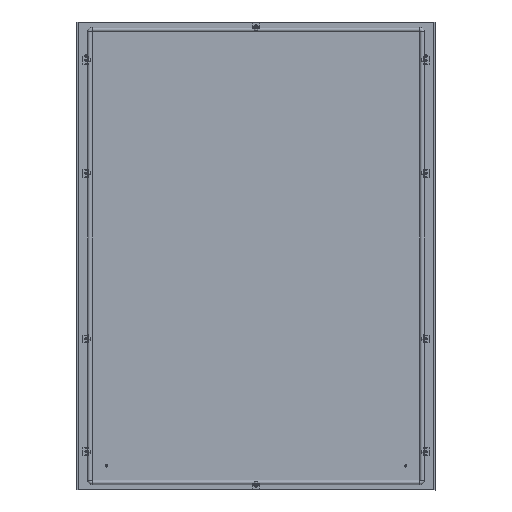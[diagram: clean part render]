
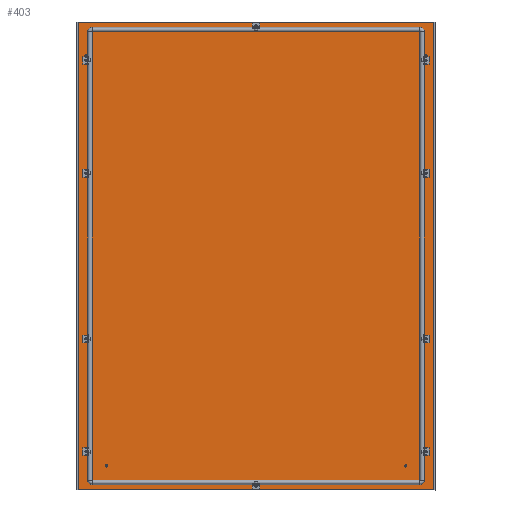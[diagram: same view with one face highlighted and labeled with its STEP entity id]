
A CAD part, top view. The second image highlights one B-rep face of the part: STEP entity #403.
In plain terms, the highlighted planar face has unit normal (0, 0, 1).
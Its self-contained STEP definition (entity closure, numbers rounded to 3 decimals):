
#403 = ADVANCED_FACE('',(#404,#502,#513,#524,#535,#546,#566,#586,#597,
    #608,#628),#648,.F.);
#404 = FACE_BOUND('',#405,.T.);
#405 = EDGE_LOOP('',(#406,#416,#424,#432,#440,#448,#456,#464,#472,#480,
    #488,#496));
#406 = ORIENTED_EDGE('',*,*,#407,.F.);
#407 = EDGE_CURVE('',#408,#410,#412,.T.);
#408 = VERTEX_POINT('',#409);
#409 = CARTESIAN_POINT('',(-595.5,777.5,0.));
#410 = VERTEX_POINT('',#411);
#411 = CARTESIAN_POINT('',(-595.3,777.5,0.));
#412 = LINE('',#413,#414);
#413 = CARTESIAN_POINT('',(0.,777.5,0.)
  );
#414 = VECTOR('',#415,1.);
#415 = DIRECTION('',(1.,0.,0.));
#416 = ORIENTED_EDGE('',*,*,#417,.T.);
#417 = EDGE_CURVE('',#408,#418,#420,.T.);
#418 = VERTEX_POINT('',#419);
#419 = CARTESIAN_POINT('',(-595.5,-777.5,
    0.));
#420 = LINE('',#421,#422);
#421 = CARTESIAN_POINT('',(-595.5,0.,0.));
#422 = VECTOR('',#423,1.);
#423 = DIRECTION('',(0.,-1.,-0.));
#424 = ORIENTED_EDGE('',*,*,#425,.T.);
#425 = EDGE_CURVE('',#418,#426,#428,.T.);
#426 = VERTEX_POINT('',#427);
#427 = CARTESIAN_POINT('',(-595.3,-777.5,
    0.));
#428 = LINE('',#429,#430);
#429 = CARTESIAN_POINT('',(0.,-777.5,
    0.));
#430 = VECTOR('',#431,1.);
#431 = DIRECTION('',(1.,-0.,-0.));
#432 = ORIENTED_EDGE('',*,*,#433,.F.);
#433 = EDGE_CURVE('',#434,#426,#436,.T.);
#434 = VERTEX_POINT('',#435);
#435 = CARTESIAN_POINT('',(-595.3,-776.,
    0.));
#436 = LINE('',#437,#438);
#437 = CARTESIAN_POINT('',(-595.3,0.,
    0.));
#438 = VECTOR('',#439,1.);
#439 = DIRECTION('',(0.,-1.,0.));
#440 = ORIENTED_EDGE('',*,*,#441,.T.);
#441 = EDGE_CURVE('',#434,#442,#444,.T.);
#442 = VERTEX_POINT('',#443);
#443 = CARTESIAN_POINT('',(595.3,-776.,
    0.));
#444 = LINE('',#445,#446);
#445 = CARTESIAN_POINT('',(0.,-776.,
    0.));
#446 = VECTOR('',#447,1.);
#447 = DIRECTION('',(1.,-0.,-0.));
#448 = ORIENTED_EDGE('',*,*,#449,.T.);
#449 = EDGE_CURVE('',#442,#450,#452,.T.);
#450 = VERTEX_POINT('',#451);
#451 = CARTESIAN_POINT('',(595.3,-777.5,0.));
#452 = LINE('',#453,#454);
#453 = CARTESIAN_POINT('',(595.3,-776.,
    0.));
#454 = VECTOR('',#455,1.);
#455 = DIRECTION('',(0.,-1.,-0.));
#456 = ORIENTED_EDGE('',*,*,#457,.F.);
#457 = EDGE_CURVE('',#458,#450,#460,.T.);
#458 = VERTEX_POINT('',#459);
#459 = CARTESIAN_POINT('',(595.5,-777.5,0.));
#460 = LINE('',#461,#462);
#461 = CARTESIAN_POINT('',(0.,-777.5,0.
    ));
#462 = VECTOR('',#463,1.);
#463 = DIRECTION('',(-1.,0.,0.));
#464 = ORIENTED_EDGE('',*,*,#465,.T.);
#465 = EDGE_CURVE('',#458,#466,#468,.T.);
#466 = VERTEX_POINT('',#467);
#467 = CARTESIAN_POINT('',(595.5,777.5,0.));
#468 = LINE('',#469,#470);
#469 = CARTESIAN_POINT('',(595.5,0.,0.));
#470 = VECTOR('',#471,1.);
#471 = DIRECTION('',(-0.,1.,-0.));
#472 = ORIENTED_EDGE('',*,*,#473,.T.);
#473 = EDGE_CURVE('',#466,#474,#476,.T.);
#474 = VERTEX_POINT('',#475);
#475 = CARTESIAN_POINT('',(595.3,777.5,0.));
#476 = LINE('',#477,#478);
#477 = CARTESIAN_POINT('',(0.,777.5,0.)
  );
#478 = VECTOR('',#479,1.);
#479 = DIRECTION('',(-1.,-0.,-0.));
#480 = ORIENTED_EDGE('',*,*,#481,.F.);
#481 = EDGE_CURVE('',#482,#474,#484,.T.);
#482 = VERTEX_POINT('',#483);
#483 = CARTESIAN_POINT('',(595.3,776.,0.));
#484 = LINE('',#485,#486);
#485 = CARTESIAN_POINT('',(595.3,0.,
    0.));
#486 = VECTOR('',#487,1.);
#487 = DIRECTION('',(0.,1.,0.));
#488 = ORIENTED_EDGE('',*,*,#489,.T.);
#489 = EDGE_CURVE('',#482,#490,#492,.T.);
#490 = VERTEX_POINT('',#491);
#491 = CARTESIAN_POINT('',(-595.3,776.,0.));
#492 = LINE('',#493,#494);
#493 = CARTESIAN_POINT('',(0.,776.,0.)
  );
#494 = VECTOR('',#495,1.);
#495 = DIRECTION('',(-1.,-0.,-0.));
#496 = ORIENTED_EDGE('',*,*,#497,.T.);
#497 = EDGE_CURVE('',#490,#410,#498,.T.);
#498 = LINE('',#499,#500);
#499 = CARTESIAN_POINT('',(-595.3,776.,0.));
#500 = VECTOR('',#501,1.);
#501 = DIRECTION('',(0.,1.,-0.));
#502 = FACE_BOUND('',#503,.T.);
#503 = EDGE_LOOP('',(#504));
#504 = ORIENTED_EDGE('',*,*,#505,.T.);
#505 = EDGE_CURVE('',#506,#506,#508,.T.);
#506 = VERTEX_POINT('',#507);
#507 = CARTESIAN_POINT('',(-4.75,764.5,0.));
#508 = CIRCLE('',#509,4.75);
#509 = AXIS2_PLACEMENT_3D('',#510,#511,#512);
#510 = CARTESIAN_POINT('',(0.,764.5,0.));
#511 = DIRECTION('',(0.,0.,-1.));
#512 = DIRECTION('',(-1.,0.,0.));
#513 = FACE_BOUND('',#514,.T.);
#514 = EDGE_LOOP('',(#515));
#515 = ORIENTED_EDGE('',*,*,#516,.T.);
#516 = EDGE_CURVE('',#517,#517,#519,.T.);
#517 = VERTEX_POINT('',#518);
#518 = CARTESIAN_POINT('',(4.75,-764.5,0.));
#519 = CIRCLE('',#520,4.75);
#520 = AXIS2_PLACEMENT_3D('',#521,#522,#523);
#521 = CARTESIAN_POINT('',(0.,-764.5,0.));
#522 = DIRECTION('',(0.,0.,-1.));
#523 = DIRECTION('',(1.,0.,0.));
#524 = FACE_BOUND('',#525,.T.);
#525 = EDGE_LOOP('',(#526));
#526 = ORIENTED_EDGE('',*,*,#527,.T.);
#527 = EDGE_CURVE('',#528,#528,#530,.T.);
#528 = VERTEX_POINT('',#529);
#529 = CARTESIAN_POINT('',(-564.5,-270.25,
    0.));
#530 = CIRCLE('',#531,4.75);
#531 = AXIS2_PLACEMENT_3D('',#532,#533,#534);
#532 = CARTESIAN_POINT('',(-564.5,-275.,
    0.));
#533 = DIRECTION('',(0.,0.,-1.));
#534 = DIRECTION('',(0.,1.,0.));
#535 = FACE_BOUND('',#536,.T.);
#536 = EDGE_LOOP('',(#537));
#537 = ORIENTED_EDGE('',*,*,#538,.T.);
#538 = EDGE_CURVE('',#539,#539,#541,.T.);
#539 = VERTEX_POINT('',#540);
#540 = CARTESIAN_POINT('',(564.5,-279.75,
    0.));
#541 = CIRCLE('',#542,4.75);
#542 = AXIS2_PLACEMENT_3D('',#543,#544,#545);
#543 = CARTESIAN_POINT('',(564.5,-275.,0.));
#544 = DIRECTION('',(-0.,0.,-1.));
#545 = DIRECTION('',(0.,-1.,0.));
#546 = FACE_BOUND('',#547,.T.);
#547 = EDGE_LOOP('',(#548,#559));
#548 = ORIENTED_EDGE('',*,*,#549,.F.);
#549 = EDGE_CURVE('',#550,#552,#554,.T.);
#550 = VERTEX_POINT('',#551);
#551 = CARTESIAN_POINT('',(-564.5,654.75,
    0.));
#552 = VERTEX_POINT('',#553);
#553 = CARTESIAN_POINT('',(-564.5,645.25,
    0.));
#554 = CIRCLE('',#555,4.75);
#555 = AXIS2_PLACEMENT_3D('',#556,#557,#558);
#556 = CARTESIAN_POINT('',(-564.5,650.,
    0.));
#557 = DIRECTION('',(0.,0.,1.));
#558 = DIRECTION('',(0.,1.,0.));
#559 = ORIENTED_EDGE('',*,*,#560,.F.);
#560 = EDGE_CURVE('',#552,#550,#561,.T.);
#561 = CIRCLE('',#562,4.75);
#562 = AXIS2_PLACEMENT_3D('',#563,#564,#565);
#563 = CARTESIAN_POINT('',(-564.5,650.,
    0.));
#564 = DIRECTION('',(0.,0.,1.));
#565 = DIRECTION('',(0.,1.,0.));
#566 = FACE_BOUND('',#567,.T.);
#567 = EDGE_LOOP('',(#568,#579));
#568 = ORIENTED_EDGE('',*,*,#569,.F.);
#569 = EDGE_CURVE('',#570,#572,#574,.T.);
#570 = VERTEX_POINT('',#571);
#571 = CARTESIAN_POINT('',(564.5,645.25,
    0.));
#572 = VERTEX_POINT('',#573);
#573 = CARTESIAN_POINT('',(564.5,654.75,
    0.));
#574 = CIRCLE('',#575,4.75);
#575 = AXIS2_PLACEMENT_3D('',#576,#577,#578);
#576 = CARTESIAN_POINT('',(564.5,650.,0.));
#577 = DIRECTION('',(0.,0.,1.));
#578 = DIRECTION('',(0.,-1.,0.));
#579 = ORIENTED_EDGE('',*,*,#580,.F.);
#580 = EDGE_CURVE('',#572,#570,#581,.T.);
#581 = CIRCLE('',#582,4.75);
#582 = AXIS2_PLACEMENT_3D('',#583,#584,#585);
#583 = CARTESIAN_POINT('',(564.5,650.,0.));
#584 = DIRECTION('',(0.,0.,1.));
#585 = DIRECTION('',(0.,-1.,0.));
#586 = FACE_BOUND('',#587,.T.);
#587 = EDGE_LOOP('',(#588));
#588 = ORIENTED_EDGE('',*,*,#589,.T.);
#589 = EDGE_CURVE('',#590,#590,#592,.T.);
#590 = VERTEX_POINT('',#591);
#591 = CARTESIAN_POINT('',(-564.5,-645.25,
    0.));
#592 = CIRCLE('',#593,4.75);
#593 = AXIS2_PLACEMENT_3D('',#594,#595,#596);
#594 = CARTESIAN_POINT('',(-564.5,-650.,
    0.));
#595 = DIRECTION('',(0.,0.,-1.));
#596 = DIRECTION('',(0.,1.,0.));
#597 = FACE_BOUND('',#598,.T.);
#598 = EDGE_LOOP('',(#599));
#599 = ORIENTED_EDGE('',*,*,#600,.T.);
#600 = EDGE_CURVE('',#601,#601,#603,.T.);
#601 = VERTEX_POINT('',#602);
#602 = CARTESIAN_POINT('',(564.5,-654.75,
    0.));
#603 = CIRCLE('',#604,4.75);
#604 = AXIS2_PLACEMENT_3D('',#605,#606,#607);
#605 = CARTESIAN_POINT('',(564.5,-650.,0.));
#606 = DIRECTION('',(-0.,0.,-1.));
#607 = DIRECTION('',(0.,-1.,0.));
#608 = FACE_BOUND('',#609,.T.);
#609 = EDGE_LOOP('',(#610,#621));
#610 = ORIENTED_EDGE('',*,*,#611,.F.);
#611 = EDGE_CURVE('',#612,#614,#616,.T.);
#612 = VERTEX_POINT('',#613);
#613 = CARTESIAN_POINT('',(564.5,270.25,
    0.));
#614 = VERTEX_POINT('',#615);
#615 = CARTESIAN_POINT('',(564.5,279.75,
    0.));
#616 = CIRCLE('',#617,4.75);
#617 = AXIS2_PLACEMENT_3D('',#618,#619,#620);
#618 = CARTESIAN_POINT('',(564.5,275.,0.));
#619 = DIRECTION('',(0.,0.,1.));
#620 = DIRECTION('',(0.,-1.,0.));
#621 = ORIENTED_EDGE('',*,*,#622,.F.);
#622 = EDGE_CURVE('',#614,#612,#623,.T.);
#623 = CIRCLE('',#624,4.75);
#624 = AXIS2_PLACEMENT_3D('',#625,#626,#627);
#625 = CARTESIAN_POINT('',(564.5,275.,0.));
#626 = DIRECTION('',(0.,0.,1.));
#627 = DIRECTION('',(0.,-1.,0.));
#628 = FACE_BOUND('',#629,.T.);
#629 = EDGE_LOOP('',(#630,#641));
#630 = ORIENTED_EDGE('',*,*,#631,.F.);
#631 = EDGE_CURVE('',#632,#634,#636,.T.);
#632 = VERTEX_POINT('',#633);
#633 = CARTESIAN_POINT('',(-564.5,279.75,
    0.));
#634 = VERTEX_POINT('',#635);
#635 = CARTESIAN_POINT('',(-564.5,270.25,
    0.));
#636 = CIRCLE('',#637,4.75);
#637 = AXIS2_PLACEMENT_3D('',#638,#639,#640);
#638 = CARTESIAN_POINT('',(-564.5,275.,
    0.));
#639 = DIRECTION('',(0.,0.,1.));
#640 = DIRECTION('',(0.,1.,0.));
#641 = ORIENTED_EDGE('',*,*,#642,.F.);
#642 = EDGE_CURVE('',#634,#632,#643,.T.);
#643 = CIRCLE('',#644,4.75);
#644 = AXIS2_PLACEMENT_3D('',#645,#646,#647);
#645 = CARTESIAN_POINT('',(-564.5,275.,
    0.));
#646 = DIRECTION('',(0.,0.,1.));
#647 = DIRECTION('',(0.,1.,0.));
#648 = PLANE('',#649);
#649 = AXIS2_PLACEMENT_3D('',#650,#651,#652);
#650 = CARTESIAN_POINT('',(0.,0.,0.));
#651 = DIRECTION('',(0.,0.,-1.));
#652 = DIRECTION('',(-1.,0.,0.));
